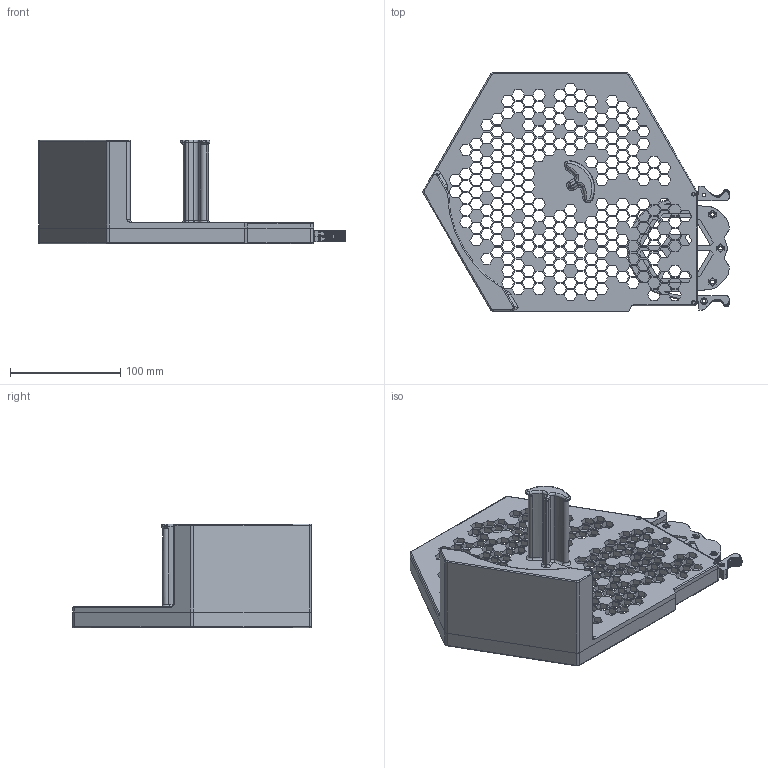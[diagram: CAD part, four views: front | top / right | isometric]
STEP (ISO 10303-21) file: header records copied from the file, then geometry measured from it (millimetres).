
FILE_DESCRIPTION(/* description */ (''),/* implementation_level */ '2;1');
FILE_NAME(/* name */ 'Spool Unit v11.step',/* time_stamp */ '2025-08-09T18:14:56+01:00',/* author */ (''),/* organization */ (''),/* preprocessor_version */ 'ST-DEVELOPER v20.1',/* originating_system */ 'Autodesk Translation Framework v14.10.0.0',/* authorisation */ '');
FILE_SCHEMA (('AUTOMOTIVE_DESIGN { 1 0 10303 214 3 1 1 }'));
Products named in the file (5): Hex Spool Holder with buffer; Spool Holder; Buffer; segment-R4(1); wheel-R4(1)
Assembly tree (4 placements, depth 2):
  Hex Spool Holder with buffer
    Spool Holder
    Buffer
    segment-R4(1)
    wheel-R4(1)
Bounding box: 278.21 x 216.51 x 94.5 mm (x, y, z)
Volume: 399916.4 mm3; surface area: 243265.9 mm2
Topology: 5 solids, 5 shells, 14203 faces, 28446 edges, 14284 vertices
Faces by surface type: plane 14057, cylinder 78, torus 34, bspline 24, sphere 6, cone 4
Full cylindrical faces by diameter (mm): 2.9 x7, 3.5 x7, 6 x5
Entity records: 344765 total; most frequent: CARTESIAN_POINT 58109, DIRECTION 57000, ORIENTED_EDGE 56890, EDGE_CURVE 28445, LINE 28172, VECTOR 28172, EDGE_LOOP 15227, AXIS2_PLACEMENT_3D 14414
